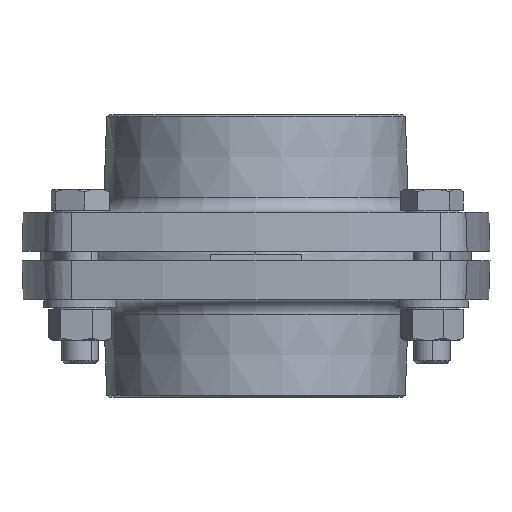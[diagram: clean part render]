
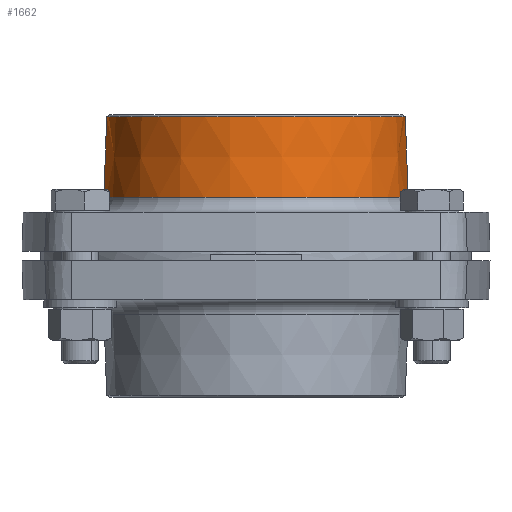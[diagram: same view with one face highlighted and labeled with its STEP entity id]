
A CAD part, front view. The second image highlights one B-rep face of the part: STEP entity #1662.
In plain terms, the highlighted conical face has half-angle 2 degrees and reference radius 50.325 mm.
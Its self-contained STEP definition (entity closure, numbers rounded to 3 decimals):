
#1662 = ADVANCED_FACE ( 'NONE', ( #10567 ), #10579, .T. ) ;
#3018 = EDGE_CURVE ( 'NONE', #5570, #5557, #9715, .T. ) ;
#3023 = EDGE_CURVE ( 'NONE', #5556, #5539, #9720, .T. ) ;
#3791 = CARTESIAN_POINT ( 'NONE',  ( 9.968, -1.472, 8.293 ) ) ;
#3792 = DIRECTION ( 'NONE',  ( 0.035, 0., -0.999 ) ) ;
#3803 = DIRECTION ( 'NONE',  ( -0.035, 0., -0.999 ) ) ;
#3808 = CARTESIAN_POINT ( 'NONE',  ( -90.682, -1.472, 8.293 ) ) ;
#4895 = AXIS2_PLACEMENT_3D ( 'NONE', #6172, #6173, #6181 ) ;
#5539 = VERTEX_POINT ( 'NONE', #14060 ) ;
#5556 = VERTEX_POINT ( 'NONE', #14077 ) ;
#5557 = VERTEX_POINT ( 'NONE', #14078 ) ;
#5570 = VERTEX_POINT ( 'NONE', #14091 ) ;
#6172 = CARTESIAN_POINT ( 'NONE',  ( -40.357, -1.472, 8.293 ) ) ;
#6173 = DIRECTION ( 'NONE',  ( 0., 0., -1. ) ) ;
#6181 = DIRECTION ( 'NONE',  ( 1., 0., 0. ) ) ;
#8302 = AXIS2_PLACEMENT_3D ( 'NONE', #12893, #12894, #12895 ) ;
#8306 = AXIS2_PLACEMENT_3D ( 'NONE', #12905, #12906, #12907 ) ;
#9715 = LINE ( 'NONE', #3791, #9717 ) ;
#9717 = VECTOR ( 'NONE', #3792, 1000. ) ;
#9720 = LINE ( 'NONE', #3808, #9725 ) ;
#9725 = VECTOR ( 'NONE', #3803, 1000. ) ;
#10567 = FACE_OUTER_BOUND ( 'NONE', #13423, .T. ) ;
#10579 = CONICAL_SURFACE ( 'NONE', #4895, 50.325, 0.035 ) ;
#11854 = CIRCLE ( 'NONE', #8302, 50.156 ) ;
#11857 = CIRCLE ( 'NONE', #8306, 49.228 ) ;
#12893 = CARTESIAN_POINT ( 'NONE',  ( -40.357, -1.472, 13.119 ) ) ;
#12894 = DIRECTION ( 'NONE',  ( 0., 0., 1. ) ) ;
#12895 = DIRECTION ( 'NONE',  ( 1., 0., 0. ) ) ;
#12905 = CARTESIAN_POINT ( 'NONE',  ( -40.357, -1.472, 39.709 ) ) ;
#12906 = DIRECTION ( 'NONE',  ( 0., 0., -1. ) ) ;
#12907 = DIRECTION ( 'NONE',  ( -1., 0., 0. ) ) ;
#13297 = ORIENTED_EDGE ( 'NONE', *, *, #13530, .T. ) ;
#13298 = ORIENTED_EDGE ( 'NONE', *, *, #3023, .T. ) ;
#13299 = ORIENTED_EDGE ( 'NONE', *, *, #13526, .T. ) ;
#13300 = ORIENTED_EDGE ( 'NONE', *, *, #3018, .F. ) ;
#13423 = EDGE_LOOP ( 'NONE', ( #13297, #13298, #13299, #13300 ) ) ;
#13526 = EDGE_CURVE ( 'NONE', #5539, #5557, #11854, .T. ) ;
#13530 = EDGE_CURVE ( 'NONE', #5570, #5556, #11857, .T. ) ;
#14060 = CARTESIAN_POINT ( 'NONE',  ( -90.513, -1.472, 13.119 ) ) ;
#14077 = CARTESIAN_POINT ( 'NONE',  ( -89.585, -1.472, 39.709 ) ) ;
#14078 = CARTESIAN_POINT ( 'NONE',  ( 9.8, -1.472, 13.119 ) ) ;
#14091 = CARTESIAN_POINT ( 'NONE',  ( 8.871, -1.472, 39.709 ) ) ;
